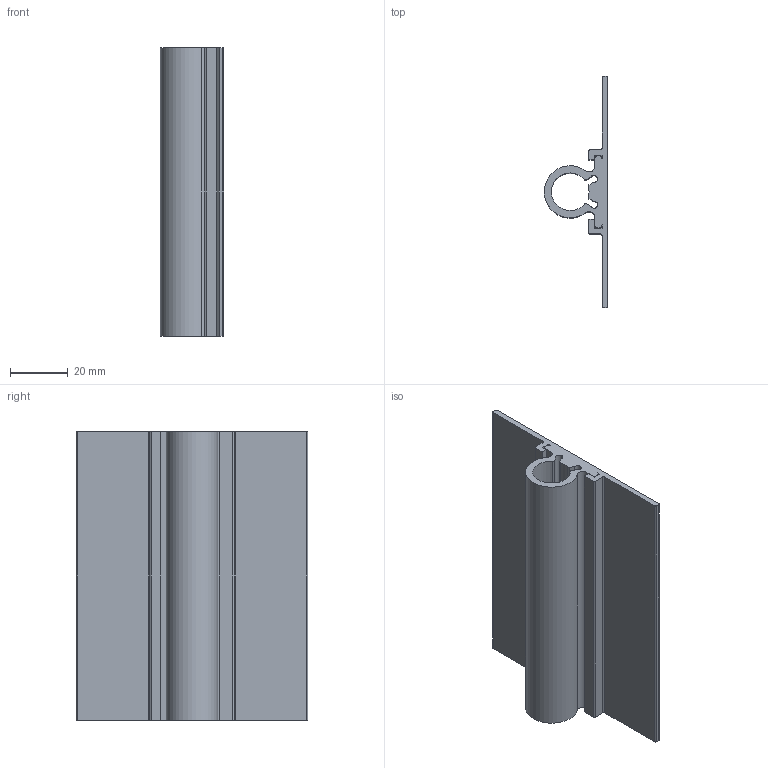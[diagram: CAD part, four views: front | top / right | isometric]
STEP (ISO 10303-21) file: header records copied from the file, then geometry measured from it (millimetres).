
FILE_DESCRIPTION((''),'2;1');
FILE_NAME('X:\Ritarkiv\STEP-Carryline Standarddelar\300-3040+300-3047.stp','2009-11-02T10:16:16',('per'),(''),'Autodesk Inventor 2010','Autodesk Inventor 2010','');
FILE_SCHEMA(('AUTOMOTIVE_DESIGN { 1 0 10303 214 1 1 1 1 }'));
Length unit declared in the file: millimetre
Products named in the file (1): Part1
Bounding box: 22 x 80 x 100 mm (x, y, z)
Volume: 36185.6 mm3; surface area: 29136.8 mm2
Topology: 1 solids, 1 shells, 50 faces, 144 edges, 96 vertices
Faces by surface type: plane 27, cylinder 23
Entity records: 1684 total; most frequent: DIRECTION 292, CARTESIAN_POINT 291, ORIENTED_EDGE 288, EDGE_CURVE 144, VECTOR 98, LINE 98, AXIS2_PLACEMENT_3D 97, VERTEX_POINT 96
